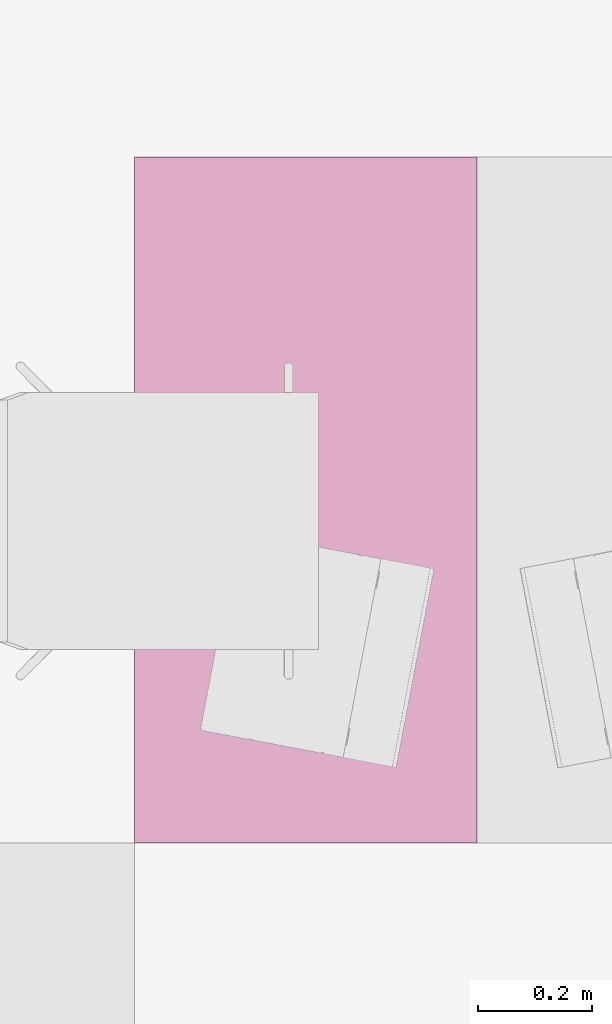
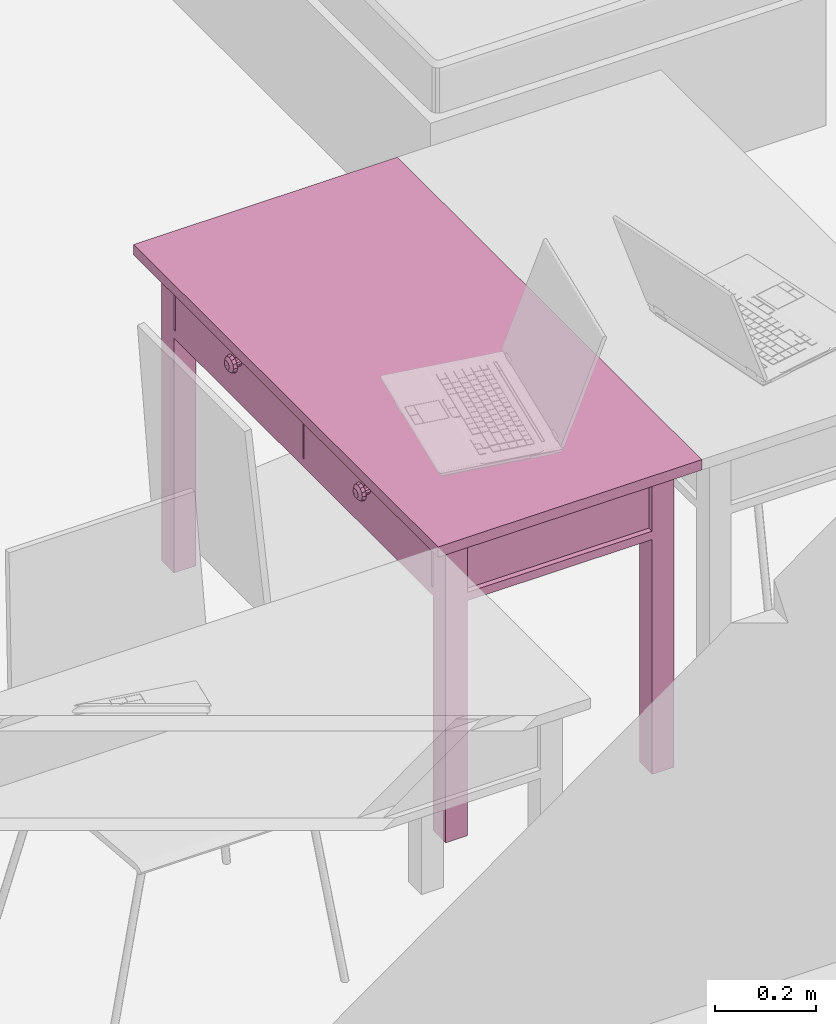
# One storey, part 72 of 172: 1 furnishing.
"""IFC2X3 building model written with IfcOpenShell, lengths in millimetres."""

from ifc_helpers import new_model, entity, si_unit, converted_unit, money_unit, direction, frame, origin_with_axes, place, context, subcontext, project, spatial, faceted_brep, source, transform, mapped, material, material_list, type_object, element, save


model = new_model("IFC2X3")

# Units and contexts
model_context = context("Model", 3, precision=1e-05, world=origin_with_axes(), true_north=direction((0.0, 1.0)))
body_context = subcontext(model_context, "Body", "Model", "MODEL_VIEW")
ifc_project = project(units=[si_unit("LENGTHUNIT", "METRE", prefix="MILLI"), si_unit("AREAUNIT", "SQUARE_METRE"), si_unit("VOLUMEUNIT", "CUBIC_METRE"), converted_unit("PLANEANGLEUNIT", "DEGREE", entity("IfcPlaneAngleMeasure", 0.0174532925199), si_unit("PLANEANGLEUNIT", "RADIAN"), dimensions=[0, 0, 0, 0, 0, 0, 0]), si_unit("SOLIDANGLEUNIT", "STERADIAN"), money_unit("USD"), converted_unit("TIMEUNIT", "Year", entity("IfcTimeMeasure", 31556926.0), si_unit("TIMEUNIT", "SECOND"), dimensions=[0, 0, 0, 0, 0, 0, 0]), si_unit("MASSUNIT", "GRAM"), si_unit("THERMODYNAMICTEMPERATUREUNIT", "DEGREE_CELSIUS"), si_unit("LUMINOUSINTENSITYUNIT", "LUMEN")], contexts=[model_context])

# Site, building, storey
site_placement = place(None, origin_with_axes())
site = spatial("IfcSite", under=ifc_project, at=site_placement, Name="Site", CompositionType="ELEMENT")
building_placement = place(site_placement, origin_with_axes())
building = spatial("IfcBuilding", under=site, at=building_placement, Name="Building", CompositionType="ELEMENT")
storey_placement = place(building_placement, frame((0.0, 0.0, 3200.0), z_axis=(0.0, 0.0, 1.0), x_axis=(1.0, 0.0, 0.0)))
storey = spatial("IfcBuildingStorey", under=building, at=storey_placement, Name="3KORRUS", CompositionType="ELEMENT", Elevation=3200.0)

# Furnishing
ifc_material = material(Name="Background")
ifc_material_list = material_list([ifc_material])
furnishing_element_type = type_object("IfcFurnishingElementType", Name="Rectangular Table 01 19")
shared_shape = source(origin_with_axes(), body_context, "Body", "Brep", [
    faceted_brep([(-90.0, 40.0, 0.0), (-90.0, 90.0, 0.0), (-40.0, 90.0, 0.0), (-40.0, 40.0, 0.0), (-90.0, 40.0, 725.0), (-90.0, 90.0, 725.0), (-40.0, 90.0, 725.0), (-40.0, 40.0, 725.0)], [[[0, 1, 2, 3]], [[0, 4, 5, 1]], [[1, 5, 6, 2]], [[2, 6, 7, 3]], [[3, 7, 4, 0]], [[7, 6, 5, 4]]]),
    faceted_brep([(-1160.0, 40.0, 0.0), (-1160.0, 90.0, 0.0), (-1110.0, 90.0, 0.0), (-1110.0, 40.0, 0.0), (-1160.0, 40.0, 725.0), (-1160.0, 90.0, 725.0), (-1110.0, 90.0, 725.0), (-1110.0, 40.0, 725.0)], [[[0, 1, 2, 3]], [[0, 4, 5, 1]], [[1, 5, 6, 2]], [[2, 6, 7, 3]], [[3, 7, 4, 0]], [[7, 6, 5, 4]]]),
    faceted_brep([(-90.0, 510.0, 0.0), (-90.0, 560.0, 0.0), (-40.0, 560.0, 0.0), (-40.0, 510.0, 0.0), (-90.0, 510.0, 725.0), (-90.0, 560.0, 725.0), (-40.0, 560.0, 725.0), (-40.0, 510.0, 725.0)], [[[0, 1, 2, 3]], [[0, 4, 5, 1]], [[1, 5, 6, 2]], [[2, 6, 7, 3]], [[3, 7, 4, 0]], [[7, 6, 5, 4]]]),
    faceted_brep([(-1160.0, 510.0, 0.0), (-1160.0, 560.0, 0.0), (-1110.0, 560.0, 0.0), (-1110.0, 510.0, 0.0), (-1160.0, 510.0, 725.0), (-1160.0, 560.0, 725.0), (-1110.0, 560.0, 725.0), (-1110.0, 510.0, 725.0)], [[[0, 1, 2, 3]], [[0, 4, 5, 1]], [[1, 5, 6, 2]], [[2, 6, 7, 3]], [[3, 7, 4, 0]], [[7, 6, 5, 4]]]),
    faceted_brep([(-1160.0, 40.0, 565.0), (-1160.0, 560.0, 565.0), (-40.0, 560.0, 565.0), (-40.0, 40.0, 565.0), (-1160.0, 40.0, 585.0), (-1160.0, 560.0, 585.0), (-40.0, 560.0, 585.0), (-40.0, 40.0, 585.0)], [[[0, 1, 2, 3]], [[0, 4, 5, 1]], [[1, 5, 6, 2]], [[2, 6, 7, 3]], [[3, 7, 4, 0]], [[7, 6, 5, 4]]]),
    faceted_brep([(-1110.0, 52.5, 585.0), (-1110.0, 77.5, 585.0), (-90.0, 77.5, 585.0), (-90.0, 52.5, 585.0), (-1110.0, 52.5, 745.0), (-1110.0, 77.5, 745.0), (-90.0, 77.5, 745.0), (-90.0, 52.5, 745.0)], [[[0, 1, 2, 3]], [[0, 4, 5, 1]], [[1, 5, 6, 2]], [[2, 6, 7, 3]], [[3, 7, 4, 0]], [[7, 6, 5, 4]]]),
    faceted_brep([(-77.5, 90.0, 585.0), (-77.5, 510.0, 585.0), (-52.5, 510.0, 585.0), (-52.5, 90.0, 585.0), (-77.5, 90.0, 745.0), (-77.5, 510.0, 745.0), (-52.5, 510.0, 745.0), (-52.5, 90.0, 745.0)], [[[0, 1, 2, 3]], [[0, 4, 5, 1]], [[1, 5, 6, 2]], [[2, 6, 7, 3]], [[3, 7, 4, 0]], [[7, 6, 5, 4]]]),
    faceted_brep([(-90.0, 547.5, 585.0), (-90.0, 522.5, 585.0), (-1110.0, 522.5, 585.0), (-1110.0, 547.5, 585.0), (-90.0, 547.5, 745.0), (-90.0, 522.5, 745.0), (-1110.0, 522.5, 745.0), (-1110.0, 547.5, 745.0)], [[[0, 1, 2, 3]], [[0, 4, 5, 1]], [[1, 5, 6, 2]], [[2, 6, 7, 3]], [[3, 7, 4, 0]], [[7, 6, 5, 4]]]),
    faceted_brep([(-1122.5, 510.0, 585.0), (-1122.5, 90.0, 585.0), (-1147.5, 90.0, 585.0), (-1147.5, 510.0, 585.0), (-1122.5, 510.0, 745.0), (-1122.5, 90.0, 745.0), (-1147.5, 90.0, 745.0), (-1147.5, 510.0, 745.0)], [[[0, 1, 2, 3]], [[0, 4, 5, 1]], [[1, 5, 6, 2]], [[2, 6, 7, 3]], [[3, 7, 4, 0]], [[7, 6, 5, 4]]]),
    faceted_brep([(-597.5, 40.0, 585.0), (-597.5, 60.0, 585.0), (-95.0, 60.0, 585.0), (-95.0, 40.0, 585.0), (-597.5, 40.0, 745.0), (-597.5, 60.0, 745.0), (-95.0, 60.0, 745.0), (-95.0, 40.0, 745.0)], [[[0, 1, 2, 3]], [[0, 4, 5, 1]], [[1, 5, 6, 2]], [[2, 6, 7, 3]], [[3, 7, 4, 0]], [[7, 6, 5, 4]]]),
    faceted_brep([(-1105.0, 40.0, 585.0), (-1105.0, 60.0, 585.0), (-602.5, 60.0, 585.0), (-602.5, 40.0, 585.0), (-1105.0, 40.0, 745.0), (-1105.0, 60.0, 745.0), (-602.5, 60.0, 745.0), (-602.5, 40.0, 745.0)], [[[0, 1, 2, 3]], [[0, 4, 5, 1]], [[1, 5, 6, 2]], [[2, 6, 7, 3]], [[3, 7, 4, 0]], [[7, 6, 5, 4]]]),
    faceted_brep([(-354.91, 40.0, 660.0), (-356.25, 40.0, 665.0), (-354.91, 40.0, 670.0), (-351.25, 40.0, 673.66), (-346.25, 40.0, 675.0), (-341.25, 40.0, 673.66), (-337.59, 40.0, 670.0), (-336.25, 40.0, 665.0), (-337.59, 40.0, 660.0), (-341.25, 40.0, 656.34), (-346.25, 40.0, 655.0), (-351.25, 40.0, 656.34), (-354.91, 25.0, 660.0), (-356.25, 25.0, 665.0), (-354.91, 25.0, 670.0), (-351.25, 25.0, 673.66), (-346.25, 25.0, 675.0), (-341.25, 25.0, 673.66), (-337.59, 25.0, 670.0), (-336.25, 25.0, 665.0), (-337.59, 25.0, 660.0), (-341.25, 25.0, 656.34), (-346.25, 25.0, 655.0), (-351.25, 25.0, 656.34)], [[[0, 1, 2, 3, 4, 5, 6, 7, 8, 9, 10, 11]], [[0, 12, 13, 1]], [[1, 13, 14, 2]], [[2, 14, 15, 3]], [[3, 15, 16, 4]], [[4, 16, 17, 5]], [[5, 17, 18, 6]], [[6, 18, 19, 7]], [[7, 19, 20, 8]], [[8, 20, 21, 9]], [[9, 21, 22, 10]], [[10, 22, 23, 11]], [[11, 23, 12, 0]], [[12, 23, 22, 21, 20, 19, 18, 17, 16, 15, 14, 13]]]),
    faceted_brep([(-356.25, 12.01, 665.0), (-354.91, 12.01, 660.0), (-346.25, 10.0, 665.0), (-363.571, 17.5, 665.0), (-361.25, 17.5, 656.34), (-351.25, 12.01, 656.34), (-354.91, 12.01, 670.0), (-366.25, 25.0, 665.0), (-363.571, 25.0, 655.0), (-354.91, 17.5, 650.0), (-361.25, 17.5, 673.66), (-346.25, 12.01, 655.0), (-351.25, 12.01, 673.66), (-363.571, 25.0, 675.0), (-356.25, 25.0, 682.321), (-346.25, 25.0, 685.0), (-336.25, 25.0, 682.321), (-328.929, 25.0, 675.0), (-326.25, 25.0, 665.0), (-328.929, 25.0, 655.0), (-336.25, 25.0, 647.679), (-346.25, 25.0, 645.0), (-356.25, 25.0, 647.679), (-346.25, 17.5, 647.679), (-354.91, 17.5, 680.0), (-341.25, 12.01, 656.34), (-346.25, 12.01, 675.0), (-346.25, 17.5, 682.321), (-337.59, 17.5, 680.0), (-331.25, 17.5, 673.66), (-328.929, 17.5, 665.0), (-331.25, 17.5, 656.34), (-337.59, 17.5, 650.0), (-337.59, 12.01, 660.0), (-341.25, 12.01, 673.66), (-337.59, 12.01, 670.0), (-336.25, 12.01, 665.0)], [[[0, 1, 2]], [[3, 4, 1, 0]], [[1, 5, 2]], [[6, 0, 2]], [[7, 8, 4, 3]], [[4, 9, 5, 1]], [[10, 3, 0, 6]], [[5, 11, 2]], [[12, 6, 2]], [[8, 7, 13, 14, 15, 16, 17, 18, 19, 20, 21, 22]], [[8, 22, 9, 4]], [[13, 7, 3, 10]], [[9, 23, 11, 5]], [[24, 10, 6, 12]], [[11, 25, 2]], [[26, 12, 2]], [[14, 13, 10, 24]], [[15, 14, 24, 27]], [[16, 15, 27, 28]], [[17, 16, 28, 29]], [[18, 17, 29, 30]], [[19, 18, 30, 31]], [[20, 19, 31, 32]], [[21, 20, 32, 23]], [[22, 21, 23, 9]], [[23, 32, 25, 11]], [[27, 24, 12, 26]], [[25, 33, 2]], [[34, 26, 2]], [[28, 27, 26, 34]], [[29, 28, 34, 35]], [[30, 29, 35, 36]], [[31, 30, 36, 33]], [[32, 31, 33, 25]], [[33, 36, 2]], [[35, 34, 2]], [[36, 35, 2]]]),
    faceted_brep([(-862.41, 40.0, 660.0), (-863.75, 40.0, 665.0), (-862.41, 40.0, 670.0), (-858.75, 40.0, 673.66), (-853.75, 40.0, 675.0), (-848.75, 40.0, 673.66), (-845.09, 40.0, 670.0), (-843.75, 40.0, 665.0), (-845.09, 40.0, 660.0), (-848.75, 40.0, 656.34), (-853.75, 40.0, 655.0), (-858.75, 40.0, 656.34), (-862.41, 25.0, 660.0), (-863.75, 25.0, 665.0), (-862.41, 25.0, 670.0), (-858.75, 25.0, 673.66), (-853.75, 25.0, 675.0), (-848.75, 25.0, 673.66), (-845.09, 25.0, 670.0), (-843.75, 25.0, 665.0), (-845.09, 25.0, 660.0), (-848.75, 25.0, 656.34), (-853.75, 25.0, 655.0), (-858.75, 25.0, 656.34)], [[[0, 1, 2, 3, 4, 5, 6, 7, 8, 9, 10, 11]], [[0, 12, 13, 1]], [[1, 13, 14, 2]], [[2, 14, 15, 3]], [[3, 15, 16, 4]], [[4, 16, 17, 5]], [[5, 17, 18, 6]], [[6, 18, 19, 7]], [[7, 19, 20, 8]], [[8, 20, 21, 9]], [[9, 21, 22, 10]], [[10, 22, 23, 11]], [[11, 23, 12, 0]], [[12, 23, 22, 21, 20, 19, 18, 17, 16, 15, 14, 13]]]),
    faceted_brep([(-863.75, 12.01, 665.0), (-862.41, 12.01, 660.0), (-853.75, 10.0, 665.0), (-871.071, 17.5, 665.0), (-868.75, 17.5, 656.34), (-858.75, 12.01, 656.34), (-862.41, 12.01, 670.0), (-873.75, 25.0, 665.0), (-871.071, 25.0, 655.0), (-862.41, 17.5, 650.0), (-868.75, 17.5, 673.66), (-853.75, 12.01, 655.0), (-858.75, 12.01, 673.66), (-871.071, 25.0, 675.0), (-863.75, 25.0, 682.321), (-853.75, 25.0, 685.0), (-843.75, 25.0, 682.321), (-836.429, 25.0, 675.0), (-833.75, 25.0, 665.0), (-836.429, 25.0, 655.0), (-843.75, 25.0, 647.679), (-853.75, 25.0, 645.0), (-863.75, 25.0, 647.679), (-853.75, 17.5, 647.679), (-862.41, 17.5, 680.0), (-848.75, 12.01, 656.34), (-853.75, 12.01, 675.0), (-853.75, 17.5, 682.321), (-845.09, 17.5, 680.0), (-838.75, 17.5, 673.66), (-836.429, 17.5, 665.0), (-838.75, 17.5, 656.34), (-845.09, 17.5, 650.0), (-845.09, 12.01, 660.0), (-848.75, 12.01, 673.66), (-845.09, 12.01, 670.0), (-843.75, 12.01, 665.0)], [[[0, 1, 2]], [[3, 4, 1, 0]], [[1, 5, 2]], [[6, 0, 2]], [[7, 8, 4, 3]], [[4, 9, 5, 1]], [[10, 3, 0, 6]], [[5, 11, 2]], [[12, 6, 2]], [[8, 7, 13, 14, 15, 16, 17, 18, 19, 20, 21, 22]], [[8, 22, 9, 4]], [[13, 7, 3, 10]], [[9, 23, 11, 5]], [[24, 10, 6, 12]], [[11, 25, 2]], [[26, 12, 2]], [[14, 13, 10, 24]], [[15, 14, 24, 27]], [[16, 15, 27, 28]], [[17, 16, 28, 29]], [[18, 17, 29, 30]], [[19, 18, 30, 31]], [[20, 19, 31, 32]], [[21, 20, 32, 23]], [[22, 21, 23, 9]], [[23, 32, 25, 11]], [[27, 24, 12, 26]], [[25, 33, 2]], [[34, 26, 2]], [[28, 27, 26, 34]], [[29, 28, 34, 35]], [[30, 29, 35, 36]], [[31, 30, 36, 33]], [[32, 31, 33, 25]], [[33, 36, 2]], [[35, 34, 2]], [[36, 35, 2]]]),
    faceted_brep([(-1200.0, 0.0, 725.0), (-1200.0, 600.0, 725.0), (0.0, 600.0, 725.0), (0.0, 0.0, 725.0), (-1200.0, 0.0, 750.0), (-1200.0, 600.0, 750.0), (0.0, 600.0, 750.0), (0.0, 0.0, 750.0)], [[[0, 1, 2, 3]], [[0, 4, 5, 1]], [[1, 5, 6, 2]], [[2, 6, 7, 3]], [[3, 7, 4, 0]], [[7, 6, 5, 4]]]),
])
furnishing_placement = place(storey_placement, frame((-51695.8669764, -18939.2398994, 0.0), z_axis=(0.0, 0.0, 1.0), x_axis=(0.0, -1.0, 0.0)))
element("IfcFurnishingElement", 1, at=furnishing_placement, inside=storey, type_object=furnishing_element_type, material=ifc_material_list, Name="FU - 011", context=body_context, shape_type="MappedRepresentation", body=[
    mapped(shared_shape, transform((0.0, 0.0, 0.0))),
])

save(model, "model.ifc")
